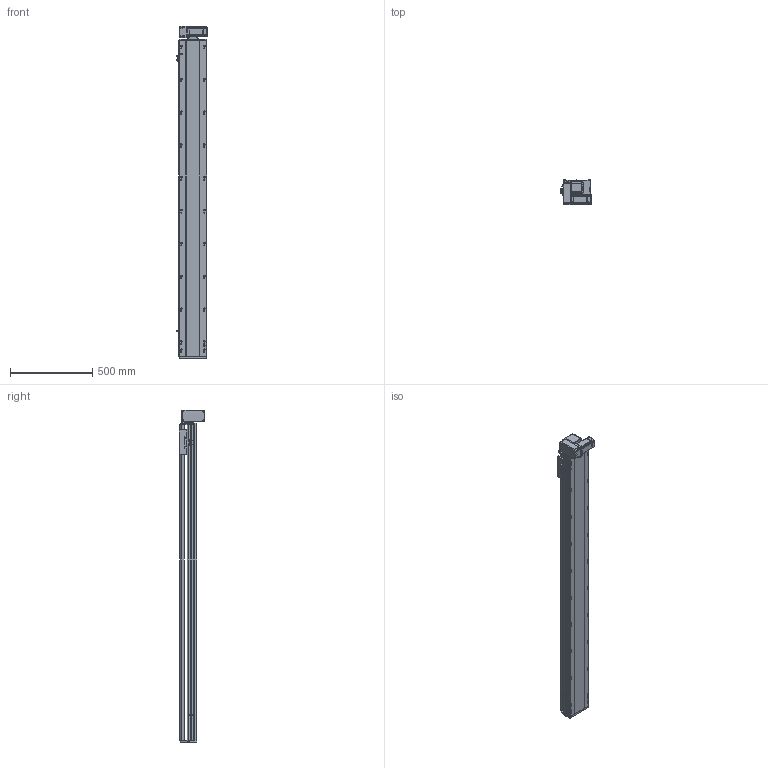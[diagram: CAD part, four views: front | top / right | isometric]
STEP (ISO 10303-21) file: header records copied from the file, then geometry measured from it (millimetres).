
FILE_DESCRIPTION (( 'STEP AP214' ), '1' );
FILE_NAME ('RTB17S-XX-1650-LM-M40-C4.STEP', '2025-12-11T06:30:14', ( '' ), ( '' ), 'SwSTEP 2.0', 'SolidWorks 2018', '' );
FILE_SCHEMA (( 'AUTOMOTIVE_DESIGN' ));
Length unit declared in the file: millimetre
Products named in the file (14): RTB14-L-008-M20--萇儂啣^RTB17S-LM-々湍釱蚾饜-400W_RTB17S-XX-XX-LM-M40-C4; RTB17S-L-004佪裝蹟譫蟀諉釱^RTB17S-XX-XX-LM-M40-C4; RTB17S-LM-々湍釱蚾饜-400W^RTB17S-XX-XX-LM-M40-C4; RMP17S-L-014-T20--々湍釱^RTB17S-LM-々湍釱蚾饜-400W_RTB17S-XX-XX-LM-M40-C4; RTB17-R-011菁釱^RTB17S-XX-XX-LM-M40-C4; RTB17S-L-007奻裔^RTB17S-XX-XX-LM-M40-C4; RTB17S-XX-1650-LM-M40-C4; RTB14-L-018P^RTB17S-LM-々湍釱蚾饜-400W_RTB17S-XX-XX-LM-M40-C4; 400W侜督萇儂^RTB17S-XX-XX-LM-M40-C4; RTB17S-L-001耜醱啣^RTB17S-XX-XX-LM-M40-C4; OMRON EE-SX672 传感器^RTB17S-XX-XX-LM-M40-C4; RTB14-L-017P^RTB17S-LM-々湍釱蚾饜-400W_RTB17S-XX-XX-LM-M40-C4; RTB14-L-005P--轴承塑胶压盖^RTB17S-LM-皮带座装配-400W_RTB17S-XX-XX-LM-M40-C4; RTH13-BL-012覜茼え俋离^RTB17S-XX-XX-LM-M40-C4
Assembly tree (16 placements, depth 3):
  RTB17S-XX-1650-LM-M40-C4
    RTB17-R-011菁釱^RTB17S-XX-XX-LM-M40-C4
    RTB17S-L-007奻裔^RTB17S-XX-XX-LM-M40-C4
    OMRON EE-SX672 传感器^RTB17S-XX-XX-LM-M40-C4  x3
    RTH13-BL-012覜茼え俋离^RTB17S-XX-XX-LM-M40-C4
    RTB17S-L-001耜醱啣^RTB17S-XX-XX-LM-M40-C4
    400W侜督萇儂^RTB17S-XX-XX-LM-M40-C4
    RTB17S-L-004佪裝蹟譫蟀諉釱^RTB17S-XX-XX-LM-M40-C4
    RTB17S-LM-々湍釱蚾饜-400W^RTB17S-XX-XX-LM-M40-C4
      RMP17S-L-014-T20--々湍釱^RTB17S-LM-々湍釱蚾饜-400W_RTB17S-XX-XX-LM-M40-C4
      RTB14-L-005P--轴承塑胶压盖^RTB17S-LM-皮带座装配-400W_RTB17S-XX-XX-LM-M40-C4
      RTB14-L-008-M20--萇儂啣^RTB17S-LM-々湍釱蚾饜-400W_RTB17S-XX-XX-LM-M40-C4
      RTB14-L-017P^RTB17S-LM-々湍釱蚾饜-400W_RTB17S-XX-XX-LM-M40-C4  x2
      RTB14-L-018P^RTB17S-LM-々湍釱蚾饜-400W_RTB17S-XX-XX-LM-M40-C4
Bounding box: 186 x 156.5 x 2022.5 mm (x, y, z)
Volume: 17669812 mm3; surface area: 2077902.9 mm2
Topology: 15 solids, 15 shells, 2269 faces, 6303 edges, 4113 vertices
Faces by surface type: plane 1076, cylinder 745, bspline 301, cone 139, torus 8
Entity records: 65705 total; most frequent: CARTESIAN_POINT 18508, ORIENTED_EDGE 9450, DIRECTION 8756, EDGE_CURVE 4725, VERTEX_POINT 3101, AXIS2_PLACEMENT_3D 3031, LINE 2694, VECTOR 2694
